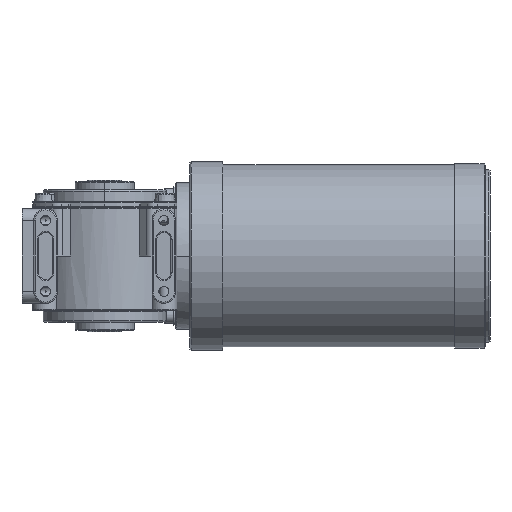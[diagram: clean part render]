
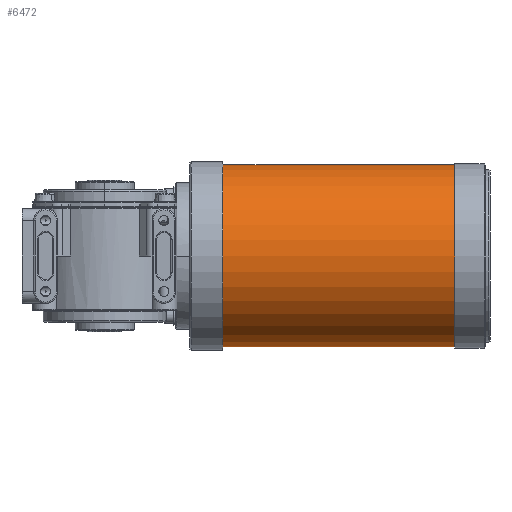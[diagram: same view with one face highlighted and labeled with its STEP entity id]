
A CAD part, front view. The second image highlights one B-rep face of the part: STEP entity #6472.
In plain terms, the highlighted cylindrical face has radius 38.5 mm (diameter 77 mm), a partial arc.
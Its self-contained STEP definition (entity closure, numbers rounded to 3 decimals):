
#1472 = CYLINDRICAL_SURFACE ( 'NONE', #8017, 38.5 ) ;
#1508 = LINE ( 'NONE', #7884, #13520 ) ;
#2536 = DIRECTION ( 'NONE',  ( -1., 0., 0. ) ) ;
#2823 = DIRECTION ( 'NONE',  ( 0., 0., -1. ) ) ;
#3771 = DIRECTION ( 'NONE',  ( 0., 0., -1. ) ) ;
#4081 = CIRCLE ( 'NONE', #11422, 38.5 ) ;
#4430 = CIRCLE ( 'NONE', #8150, 38.5 ) ;
#5503 = FACE_OUTER_BOUND ( 'NONE', #17346, .T. ) ;
#6363 = ORIENTED_EDGE ( 'NONE', *, *, #8936, .F. ) ;
#6472 = ADVANCED_FACE ( 'NONE', ( #5503 ), #1472, .T. ) ;
#6628 = CARTESIAN_POINT ( 'NONE',  ( -47.394, 40.936, -38.5 ) ) ;
#7169 = VERTEX_POINT ( 'NONE', #20705 ) ;
#7425 = ORIENTED_EDGE ( 'NONE', *, *, #8235, .T. ) ;
#7884 = CARTESIAN_POINT ( 'NONE',  ( 65.606, 40.936, -38.5 ) ) ;
#8017 = AXIS2_PLACEMENT_3D ( 'NONE', #25318, #27747, #27609 ) ;
#8150 = AXIS2_PLACEMENT_3D ( 'NONE', #27463, #14696, #3771 ) ;
#8235 = EDGE_CURVE ( 'NONE', #7169, #11171, #21425, .T. ) ;
#8496 = CARTESIAN_POINT ( 'NONE',  ( 65.606, 40.936, 38.5 ) ) ;
#8936 = EDGE_CURVE ( 'NONE', #12741, #11171, #4430, .T. ) ;
#10675 = VECTOR ( 'NONE', #12634, 1000. ) ;
#10696 = CARTESIAN_POINT ( 'NONE',  ( -47.394, 40.936, 38.5 ) ) ;
#11171 = VERTEX_POINT ( 'NONE', #10696 ) ;
#11422 = AXIS2_PLACEMENT_3D ( 'NONE', #16072, #2536, #2823 ) ;
#12634 = DIRECTION ( 'NONE',  ( -1., 0., 0. ) ) ;
#12741 = VERTEX_POINT ( 'NONE', #6628 ) ;
#13520 = VECTOR ( 'NONE', #19728, 1000. ) ;
#14211 = EDGE_CURVE ( 'NONE', #24964, #12741, #1508, .T. ) ;
#14696 = DIRECTION ( 'NONE',  ( -1., 0., 0. ) ) ;
#16072 = CARTESIAN_POINT ( 'NONE',  ( 50.606, 40.936, 0. ) ) ;
#17006 = EDGE_CURVE ( 'NONE', #24964, #7169, #4081, .T. ) ;
#17346 = EDGE_LOOP ( 'NONE', ( #28099, #7425, #6363, #27990 ) ) ;
#19400 = CARTESIAN_POINT ( 'NONE',  ( 50.606, 40.936, -38.5 ) ) ;
#19728 = DIRECTION ( 'NONE',  ( -1., 0., 0. ) ) ;
#20705 = CARTESIAN_POINT ( 'NONE',  ( 50.606, 40.936, 38.5 ) ) ;
#21425 = LINE ( 'NONE', #8496, #10675 ) ;
#24964 = VERTEX_POINT ( 'NONE', #19400 ) ;
#25318 = CARTESIAN_POINT ( 'NONE',  ( 65.606, 40.936, 0. ) ) ;
#27463 = CARTESIAN_POINT ( 'NONE',  ( -47.394, 40.936, 0. ) ) ;
#27609 = DIRECTION ( 'NONE',  ( 0., 0., -1. ) ) ;
#27747 = DIRECTION ( 'NONE',  ( -1., 0., 0. ) ) ;
#27990 = ORIENTED_EDGE ( 'NONE', *, *, #14211, .F. ) ;
#28099 = ORIENTED_EDGE ( 'NONE', *, *, #17006, .T. ) ;
